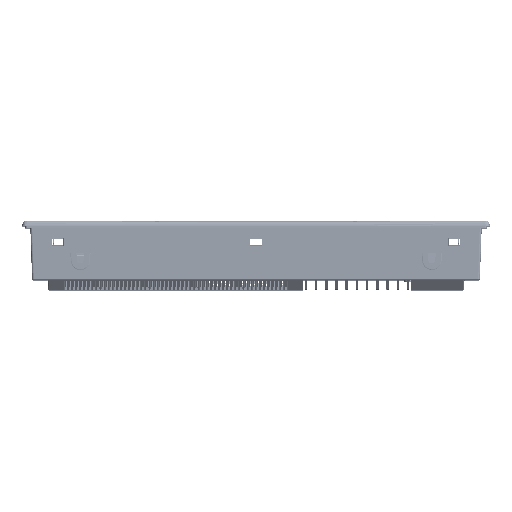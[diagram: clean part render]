
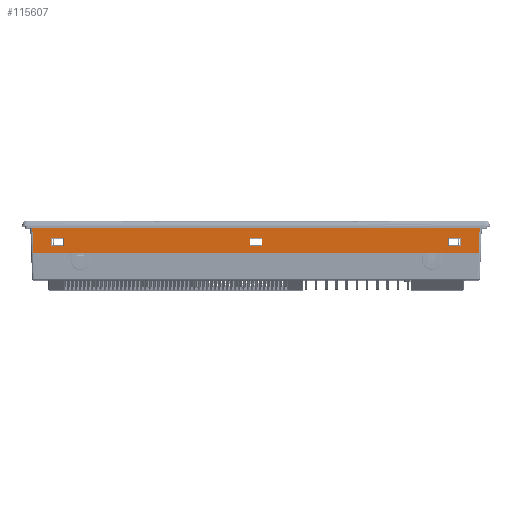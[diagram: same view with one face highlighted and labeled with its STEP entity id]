
A CAD part, top view. The second image highlights one B-rep face of the part: STEP entity #115607.
In plain terms, the highlighted planar face has unit normal (0, -0.035, 0.999).
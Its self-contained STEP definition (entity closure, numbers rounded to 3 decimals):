
#615 = VECTOR ( 'NONE', #600886, 1000. ) ;
#4660 = VERTEX_POINT ( 'NONE', #165469 ) ;
#6260 = LINE ( 'NONE', #115476, #470650 ) ;
#7960 = PLANE ( 'NONE',  #349052 ) ;
#28995 = LINE ( 'NONE', #236507, #246693 ) ;
#29456 = CARTESIAN_POINT ( 'NONE',  ( -218.1, 0., 183. ) ) ;
#32874 = VERTEX_POINT ( 'NONE', #229146 ) ;
#34283 = CARTESIAN_POINT ( 'NONE',  ( 188.378, 14.678, 183.513 ) ) ;
#38087 = ORIENTED_EDGE ( 'NONE', *, *, #318002, .F. ) ;
#39260 = LINE ( 'NONE', #215382, #394748 ) ;
#46868 = LINE ( 'NONE', #172995, #293676 ) ;
#54956 = ORIENTED_EDGE ( 'NONE', *, *, #210185, .F. ) ;
#61036 = CARTESIAN_POINT ( 'NONE',  ( 218.427, 9.31, 183.325 ) ) ;
#70843 = VERTEX_POINT ( 'NONE', #420952 ) ;
#72991 = LINE ( 'NONE', #446236, #552163 ) ;
#80294 = CARTESIAN_POINT ( 'NONE',  ( -188.377, 14.678, 183.513 ) ) ;
#82386 = ORIENTED_EDGE ( 'NONE', *, *, #307941, .F. ) ;
#112972 = LINE ( 'NONE', #206786, #482961 ) ;
#114771 = CARTESIAN_POINT ( 'NONE',  ( 200.623, 0., 183. ) ) ;
#115476 = CARTESIAN_POINT ( 'NONE',  ( 6.123, 0., 183. ) ) ;
#115607 = ADVANCED_FACE ( 'NONE', ( #501102, #268931, #377731, #254344 ), #7960, .F. ) ;
#117206 = VECTOR ( 'NONE', #228705, 1000. ) ;
#120091 = EDGE_CURVE ( 'NONE', #198007, #300361, #218764, .T. ) ;
#137441 = CARTESIAN_POINT ( 'NONE',  ( -218.989, 6.437, 183.225 ) ) ;
#140059 = VECTOR ( 'NONE', #188078, 1000. ) ;
#143058 = EDGE_LOOP ( 'NONE', ( #359220, #38087, #458216, #478228 ) ) ;
#157396 = EDGE_CURVE ( 'NONE', #548948, #198007, #229638, .T. ) ;
#165057 = CARTESIAN_POINT ( 'NONE',  ( 6.123, 6.437, 183.225 ) ) ;
#165469 = CARTESIAN_POINT ( 'NONE',  ( -219.076, 27.93, 183.976 ) ) ;
#166149 = CARTESIAN_POINT ( 'NONE',  ( 72.701, 0., 183. ) ) ;
#171638 = ORIENTED_EDGE ( 'NONE', *, *, #414168, .F. ) ;
#172300 = EDGE_CURVE ( 'NONE', #32874, #189663, #112972, .T. ) ;
#172995 = CARTESIAN_POINT ( 'NONE',  ( -218.989, 6.437, 183.225 ) ) ;
#175519 = VECTOR ( 'NONE', #580855, 1000. ) ;
#182970 = CARTESIAN_POINT ( 'NONE',  ( -6.122, 0., 183. ) ) ;
#183736 = LINE ( 'NONE', #137441, #140059 ) ;
#188078 = DIRECTION ( 'NONE',  ( 1., 0., 0. ) ) ;
#189663 = VERTEX_POINT ( 'NONE', #80294 ) ;
#190383 = B_SPLINE_CURVE_WITH_KNOTS ( 'NONE', 3,
 ( #29456, #445222, #493864, #216107 ),
 .UNSPECIFIED., .F., .F.,
 ( 4, 4 ),
 ( 0., 1. ),
 .UNSPECIFIED. ) ;
#194572 = DIRECTION ( 'NONE',  ( 0., 0.035, -0.999 ) ) ;
#196161 = EDGE_CURVE ( 'NONE', #363568, #505745, #261922, .T. ) ;
#196625 = LINE ( 'NONE', #114771, #305478 ) ;
#198007 = VERTEX_POINT ( 'NONE', #236644 ) ;
#206786 = CARTESIAN_POINT ( 'NONE',  ( -188.377, 0., 183. ) ) ;
#207182 = CARTESIAN_POINT ( 'NONE',  ( -218.1, 0., 183. ) ) ;
#210185 = EDGE_CURVE ( 'NONE', #300361, #4660, #190383, .T. ) ;
#212834 = CARTESIAN_POINT ( 'NONE',  ( -72.7, 0., 183. ) ) ;
#215382 = CARTESIAN_POINT ( 'NONE',  ( -218.989, 6.437, 183.225 ) ) ;
#216107 = CARTESIAN_POINT ( 'NONE',  ( -219.076, 27.93, 183.976 ) ) ;
#218764 = B_SPLINE_CURVE_WITH_KNOTS ( 'NONE', 3,
 ( #490559, #166149, #212834, #537346 ),
 .UNSPECIFIED., .F., .F.,
 ( 4, 4 ),
 ( 0., 1. ),
 .UNSPECIFIED. ) ;
#219633 = DIRECTION ( 'NONE',  ( 1., 0., 0. ) ) ;
#222789 = CARTESIAN_POINT ( 'NONE',  ( -219.076, 27.93, 183.976 ) ) ;
#224369 = VERTEX_POINT ( 'NONE', #594372 ) ;
#228705 = DIRECTION ( 'NONE',  ( 0., -0.999, -0.035 ) ) ;
#229146 = CARTESIAN_POINT ( 'NONE',  ( -188.377, 6.437, 183.225 ) ) ;
#229638 = B_SPLINE_CURVE_WITH_KNOTS ( 'NONE', 3,
 ( #243695, #245692, #61036, #385590 ),
 .UNSPECIFIED., .F., .F.,
 ( 4, 4 ),
 ( 0., 1. ),
 .UNSPECIFIED. ) ;
#231398 = EDGE_CURVE ( 'NONE', #505745, #361499, #39260, .T. ) ;
#234178 = CARTESIAN_POINT ( 'NONE',  ( 200.623, 14.678, 183.513 ) ) ;
#236507 = CARTESIAN_POINT ( 'NONE',  ( -218.989, 14.678, 183.513 ) ) ;
#236644 = CARTESIAN_POINT ( 'NONE',  ( 218.102, 0., 183. ) ) ;
#241765 = CARTESIAN_POINT ( 'NONE',  ( 188.378, 6.437, 183.225 ) ) ;
#242191 = ORIENTED_EDGE ( 'NONE', *, *, #250948, .F. ) ;
#243695 = CARTESIAN_POINT ( 'NONE',  ( 219.077, 27.93, 183.976 ) ) ;
#245692 = CARTESIAN_POINT ( 'NONE',  ( 218.752, 18.62, 183.651 ) ) ;
#246693 = VECTOR ( 'NONE', #283177, 1000. ) ;
#248103 = CARTESIAN_POINT ( 'NONE',  ( -218.989, 14.678, 183.513 ) ) ;
#250948 = EDGE_CURVE ( 'NONE', #70843, #363568, #545702, .T. ) ;
#254344 = FACE_OUTER_BOUND ( 'NONE', #598503, .T. ) ;
#255070 = ORIENTED_EDGE ( 'NONE', *, *, #196161, .F. ) ;
#256212 = CARTESIAN_POINT ( 'NONE',  ( -218.989, 14.678, 183.513 ) ) ;
#261922 = LINE ( 'NONE', #182970, #615 ) ;
#268931 = FACE_BOUND ( 'NONE', #348089, .T. ) ;
#269448 = CARTESIAN_POINT ( 'NONE',  ( 73.026, 27.93, 183.976 ) ) ;
#283177 = DIRECTION ( 'NONE',  ( -1., 0., 0. ) ) ;
#292480 = CARTESIAN_POINT ( 'NONE',  ( -6.122, 14.678, 183.513 ) ) ;
#293676 = VECTOR ( 'NONE', #219633, 1000. ) ;
#297948 = ORIENTED_EDGE ( 'NONE', *, *, #120091, .F. ) ;
#300361 = VERTEX_POINT ( 'NONE', #207182 ) ;
#305478 = VECTOR ( 'NONE', #439177, 1000. ) ;
#307941 = EDGE_CURVE ( 'NONE', #547057, #32874, #46868, .T. ) ;
#308460 = DIRECTION ( 'NONE',  ( 0., -0.999, -0.035 ) ) ;
#310792 = VERTEX_POINT ( 'NONE', #34283 ) ;
#312520 = EDGE_CURVE ( 'NONE', #361499, #70843, #6260, .T. ) ;
#318002 = EDGE_CURVE ( 'NONE', #379143, #484680, #196625, .T. ) ;
#329726 = LINE ( 'NONE', #248103, #562089 ) ;
#341427 = DIRECTION ( 'NONE',  ( -1., 0., 0. ) ) ;
#348089 = EDGE_LOOP ( 'NONE', ( #242191, #497605, #351541, #255070 ) ) ;
#349052 = AXIS2_PLACEMENT_3D ( 'NONE', #472356, #194572, #519055 ) ;
#349336 = LINE ( 'NONE', #504524, #117206 ) ;
#351541 = ORIENTED_EDGE ( 'NONE', *, *, #231398, .F. ) ;
#359220 = ORIENTED_EDGE ( 'NONE', *, *, #384460, .F. ) ;
#361499 = VERTEX_POINT ( 'NONE', #165057 ) ;
#363568 = VERTEX_POINT ( 'NONE', #292480 ) ;
#365201 = B_SPLINE_CURVE_WITH_KNOTS ( 'NONE', 3,
 ( #222789, #500593, #269448, #594036 ),
 .UNSPECIFIED., .F., .F.,
 ( 4, 4 ),
 ( 0., 1. ),
 .UNSPECIFIED. ) ;
#377731 = FACE_BOUND ( 'NONE', #478072, .T. ) ;
#379143 = VERTEX_POINT ( 'NONE', #417481 ) ;
#384460 = EDGE_CURVE ( 'NONE', #484680, #310792, #28995, .T. ) ;
#385590 = CARTESIAN_POINT ( 'NONE',  ( 218.102, 0., 183. ) ) ;
#394748 = VECTOR ( 'NONE', #401917, 1000. ) ;
#394911 = CARTESIAN_POINT ( 'NONE',  ( -6.122, 6.437, 183.225 ) ) ;
#395841 = CARTESIAN_POINT ( 'NONE',  ( 219.077, 27.93, 183.976 ) ) ;
#401917 = DIRECTION ( 'NONE',  ( 1., 0., 0. ) ) ;
#414168 = EDGE_CURVE ( 'NONE', #4660, #548948, #365201, .T. ) ;
#417481 = CARTESIAN_POINT ( 'NONE',  ( 200.623, 6.437, 183.225 ) ) ;
#418947 = ORIENTED_EDGE ( 'NONE', *, *, #157396, .F. ) ;
#420618 = EDGE_CURVE ( 'NONE', #494238, #379143, #183736, .T. ) ;
#420952 = CARTESIAN_POINT ( 'NONE',  ( 6.123, 14.678, 183.513 ) ) ;
#439177 = DIRECTION ( 'NONE',  ( 0., 0.999, 0.035 ) ) ;
#440376 = ORIENTED_EDGE ( 'NONE', *, *, #505209, .F. ) ;
#445222 = CARTESIAN_POINT ( 'NONE',  ( -218.426, 9.31, 183.325 ) ) ;
#446236 = CARTESIAN_POINT ( 'NONE',  ( -200.622, 0., 183. ) ) ;
#458216 = ORIENTED_EDGE ( 'NONE', *, *, #420618, .F. ) ;
#458671 = CARTESIAN_POINT ( 'NONE',  ( -200.622, 6.437, 183.225 ) ) ;
#470650 = VECTOR ( 'NONE', #580003, 1000. ) ;
#472356 = CARTESIAN_POINT ( 'NONE',  ( -218.989, 0., 183. ) ) ;
#478072 = EDGE_LOOP ( 'NONE', ( #538975, #480430, #82386, #440376 ) ) ;
#478228 = ORIENTED_EDGE ( 'NONE', *, *, #486755, .F. ) ;
#480430 = ORIENTED_EDGE ( 'NONE', *, *, #172300, .F. ) ;
#482961 = VECTOR ( 'NONE', #484501, 1000. ) ;
#484501 = DIRECTION ( 'NONE',  ( 0., 0.999, 0.035 ) ) ;
#484680 = VERTEX_POINT ( 'NONE', #234178 ) ;
#486755 = EDGE_CURVE ( 'NONE', #310792, #494238, #349336, .T. ) ;
#490559 = CARTESIAN_POINT ( 'NONE',  ( 218.102, 0., 183. ) ) ;
#493864 = CARTESIAN_POINT ( 'NONE',  ( -218.751, 18.62, 183.65 ) ) ;
#494238 = VERTEX_POINT ( 'NONE', #241765 ) ;
#497605 = ORIENTED_EDGE ( 'NONE', *, *, #312520, .F. ) ;
#500593 = CARTESIAN_POINT ( 'NONE',  ( -73.025, 27.93, 183.976 ) ) ;
#501102 = FACE_BOUND ( 'NONE', #143058, .T. ) ;
#504524 = CARTESIAN_POINT ( 'NONE',  ( 188.378, 0., 183. ) ) ;
#505209 = EDGE_CURVE ( 'NONE', #224369, #547057, #72991, .T. ) ;
#505745 = VERTEX_POINT ( 'NONE', #394911 ) ;
#519055 = DIRECTION ( 'NONE',  ( 0., 0.999, 0.035 ) ) ;
#537346 = CARTESIAN_POINT ( 'NONE',  ( -218.1, 0., 183. ) ) ;
#538975 = ORIENTED_EDGE ( 'NONE', *, *, #550298, .F. ) ;
#545702 = LINE ( 'NONE', #256212, #175519 ) ;
#547057 = VERTEX_POINT ( 'NONE', #458671 ) ;
#548948 = VERTEX_POINT ( 'NONE', #395841 ) ;
#550298 = EDGE_CURVE ( 'NONE', #189663, #224369, #329726, .T. ) ;
#552163 = VECTOR ( 'NONE', #308460, 1000. ) ;
#562089 = VECTOR ( 'NONE', #341427, 1000. ) ;
#580003 = DIRECTION ( 'NONE',  ( 0., 0.999, 0.035 ) ) ;
#580855 = DIRECTION ( 'NONE',  ( -1., 0., 0. ) ) ;
#594036 = CARTESIAN_POINT ( 'NONE',  ( 219.077, 27.93, 183.976 ) ) ;
#594372 = CARTESIAN_POINT ( 'NONE',  ( -200.622, 14.678, 183.513 ) ) ;
#598503 = EDGE_LOOP ( 'NONE', ( #418947, #171638, #54956, #297948 ) ) ;
#600886 = DIRECTION ( 'NONE',  ( 0., -0.999, -0.035 ) ) ;
